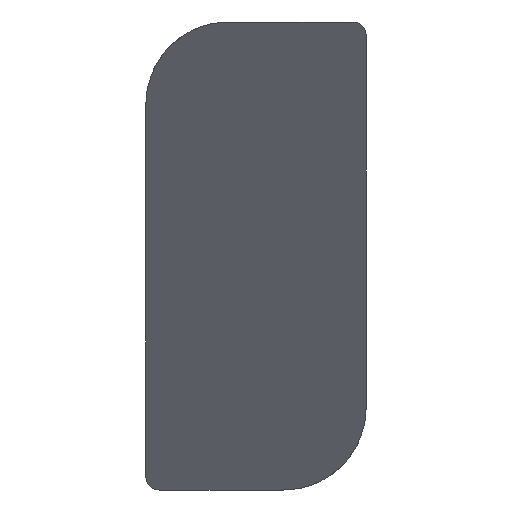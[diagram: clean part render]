
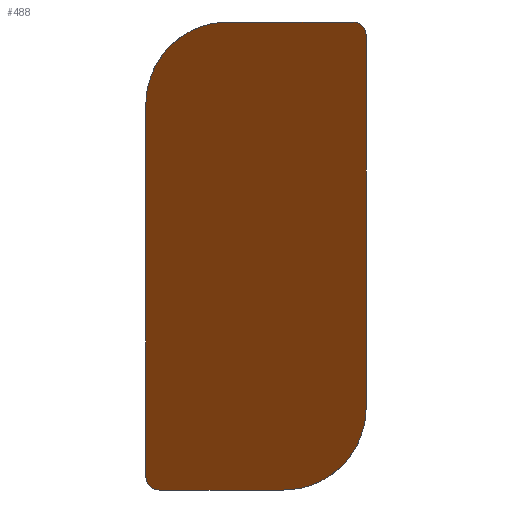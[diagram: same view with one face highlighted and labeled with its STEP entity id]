
A CAD part, left-side view. The second image highlights one B-rep face of the part: STEP entity #488.
In plain terms, the highlighted planar face has unit normal (-0.766, 0, -0.643).
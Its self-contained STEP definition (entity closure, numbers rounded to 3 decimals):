
#23 = VERTEX_POINT ( 'NONE', #459 ) ;
#27 = VERTEX_POINT ( 'NONE', #548 ) ;
#37 = CARTESIAN_POINT ( 'NONE',  ( -3.889, 0., -3.629 ) ) ;
#48 = CARTESIAN_POINT ( 'NONE',  ( -10.5, 4., 4.25 ) ) ;
#52 = DIRECTION ( 'NONE',  ( 0., -1., 0. ) ) ;
#57 = CARTESIAN_POINT ( 'NONE',  ( -10.5, 2.5, 4.25 ) ) ;
#61 = CARTESIAN_POINT ( 'NONE',  ( -3.368, 1.5, -4.25 ) ) ;
#65 = EDGE_CURVE ( 'NONE', #23, #27, #372, .T. ) ;
#70 = CARTESIAN_POINT ( 'NONE',  ( -10.5, 4., 4.25 ) ) ;
#80 = VECTOR ( 'NONE', #392, 1000. ) ;
#98 = CARTESIAN_POINT ( 'NONE',  ( -3.368, 3.75, -4.25 ) ) ;
#101 = CARTESIAN_POINT ( 'NONE',  ( -10.5, 0., 4.25 ) ) ;
#103 = CARTESIAN_POINT ( 'NONE',  ( -4.626, 0., -2.75 ) ) ;
#104 = EDGE_CURVE ( 'NONE', #539, #303, #132, .T. ) ;
#124 = EDGE_CURVE ( 'NONE', #274, #324, #277, .T. ) ;
#132 =( BOUNDED_CURVE ( )  B_SPLINE_CURVE ( 3, ( #555, #337, #37, #508 ),
 .UNSPECIFIED., .F., .F. ) 
 B_SPLINE_CURVE_WITH_KNOTS ( ( 4, 4 ),
 ( 3.142, 4.712 ),
 .UNSPECIFIED. ) 
 CURVE ( )  GEOMETRIC_REPRESENTATION_ITEM ( )  RATIONAL_B_SPLINE_CURVE ( ( 1., 0.805, 0.805, 1. ) ) 
 REPRESENTATION_ITEM ( '' )  );
#144 = DIRECTION ( 'NONE',  ( -0.643, 0., 0.766 ) ) ;
#146 = AXIS2_PLACEMENT_3D ( 'NONE', #433, #233, #398 ) ;
#186 = CARTESIAN_POINT ( 'NONE',  ( -9.979, 4., 3.629 ) ) ;
#192 = CARTESIAN_POINT ( 'NONE',  ( -10.5, 3.379, 4.25 ) ) ;
#196 = EDGE_CURVE ( 'NONE', #274, #318, #330, .T. ) ;
#201 = LINE ( 'NONE', #473, #80 ) ;
#203 = ORIENTED_EDGE ( 'NONE', *, *, #65, .T. ) ;
#205 = EDGE_LOOP ( 'NONE', ( #375, #341, #408, #279, #354, #203, #549, #310 ) ) ;
#210 = CARTESIAN_POINT ( 'NONE',  ( -3.368, 3.896, -4.25 ) ) ;
#216 = CARTESIAN_POINT ( 'NONE',  ( -10.29, 0., 4. ) ) ;
#221 = FACE_OUTER_BOUND ( 'NONE', #205, .T. ) ;
#231 = CARTESIAN_POINT ( 'NONE',  ( -9.241, 4., 2.75 ) ) ;
#232 = CARTESIAN_POINT ( 'NONE',  ( -9.241, 4., 2.75 ) ) ;
#233 = DIRECTION ( 'NONE',  ( 0.766, 0., 0.643 ) ) ;
#243 = VECTOR ( 'NONE', #453, 1000. ) ;
#274 = VERTEX_POINT ( 'NONE', #278 ) ;
#277 =( BOUNDED_CURVE ( )  B_SPLINE_CURVE ( 3, ( #504, #457, #210, #420 ),
 .UNSPECIFIED., .F., .F. ) 
 B_SPLINE_CURVE_WITH_KNOTS ( ( 4, 4 ),
 ( 4.712, 6.283 ),
 .UNSPECIFIED. ) 
 CURVE ( )  GEOMETRIC_REPRESENTATION_ITEM ( )  RATIONAL_B_SPLINE_CURVE ( ( 1., 0.805, 0.805, 1. ) ) 
 REPRESENTATION_ITEM ( '' )  );
#278 = CARTESIAN_POINT ( 'NONE',  ( -3.577, 4., -4. ) ) ;
#279 = ORIENTED_EDGE ( 'NONE', *, *, #104, .T. ) ;
#281 = LINE ( 'NONE', #48, #486 ) ;
#294 = EDGE_CURVE ( 'NONE', #353, #318, #357, .T. ) ;
#303 = VERTEX_POINT ( 'NONE', #103 ) ;
#310 = ORIENTED_EDGE ( 'NONE', *, *, #294, .T. ) ;
#318 = VERTEX_POINT ( 'NONE', #231 ) ;
#324 = VERTEX_POINT ( 'NONE', #98 ) ;
#330 = LINE ( 'NONE', #70, #243 ) ;
#337 = CARTESIAN_POINT ( 'NONE',  ( -3.368, 0.621, -4.25 ) ) ;
#341 = ORIENTED_EDGE ( 'NONE', *, *, #124, .T. ) ;
#353 = VERTEX_POINT ( 'NONE', #436 ) ;
#354 = ORIENTED_EDGE ( 'NONE', *, *, #518, .T. ) ;
#357 =( BOUNDED_CURVE ( )  B_SPLINE_CURVE ( 3, ( #57, #192, #186, #232 ),
 .UNSPECIFIED., .F., .F. ) 
 B_SPLINE_CURVE_WITH_KNOTS ( ( 4, 4 ),
 ( 0., 1.571 ),
 .UNSPECIFIED. ) 
 CURVE ( )  GEOMETRIC_REPRESENTATION_ITEM ( )  RATIONAL_B_SPLINE_CURVE ( ( 1., 0.805, 0.805, 1. ) ) 
 REPRESENTATION_ITEM ( '' )  );
#369 = CARTESIAN_POINT ( 'NONE',  ( -10.5, 0.25, 4.25 ) ) ;
#372 =( BOUNDED_CURVE ( )  B_SPLINE_CURVE ( 3, ( #216, #382, #557, #369 ),
 .UNSPECIFIED., .F., .F. ) 
 B_SPLINE_CURVE_WITH_KNOTS ( ( 4, 4 ),
 ( 1.571, 3.142 ),
 .UNSPECIFIED. ) 
 CURVE ( )  GEOMETRIC_REPRESENTATION_ITEM ( )  RATIONAL_B_SPLINE_CURVE ( ( 1., 0.805, 0.805, 1. ) ) 
 REPRESENTATION_ITEM ( '' )  );
#375 = ORIENTED_EDGE ( 'NONE', *, *, #196, .F. ) ;
#382 = CARTESIAN_POINT ( 'NONE',  ( -10.413, 0., 4.146 ) ) ;
#390 = EDGE_CURVE ( 'NONE', #353, #27, #281, .T. ) ;
#392 = DIRECTION ( 'NONE',  ( 0., -1., 0. ) ) ;
#398 = DIRECTION ( 'NONE',  ( 0.643, 0., -0.766 ) ) ;
#405 = VECTOR ( 'NONE', #144, 1000. ) ;
#408 = ORIENTED_EDGE ( 'NONE', *, *, #551, .T. ) ;
#420 = CARTESIAN_POINT ( 'NONE',  ( -3.368, 3.75, -4.25 ) ) ;
#433 = CARTESIAN_POINT ( 'NONE',  ( -10.5, 4., 4.25 ) ) ;
#436 = CARTESIAN_POINT ( 'NONE',  ( -10.5, 2.5, 4.25 ) ) ;
#443 = PLANE ( 'NONE',  #146 ) ;
#453 = DIRECTION ( 'NONE',  ( -0.643, 0., 0.766 ) ) ;
#457 = CARTESIAN_POINT ( 'NONE',  ( -3.455, 4., -4.146 ) ) ;
#459 = CARTESIAN_POINT ( 'NONE',  ( -10.29, 0., 4. ) ) ;
#473 = CARTESIAN_POINT ( 'NONE',  ( -3.368, 4., -4.25 ) ) ;
#486 = VECTOR ( 'NONE', #52, 1000. ) ;
#488 = ADVANCED_FACE ( 'NONE', ( #221 ), #443, .F. ) ;
#504 = CARTESIAN_POINT ( 'NONE',  ( -3.577, 4., -4. ) ) ;
#508 = CARTESIAN_POINT ( 'NONE',  ( -4.626, 0., -2.75 ) ) ;
#518 = EDGE_CURVE ( 'NONE', #303, #23, #538, .T. ) ;
#538 = LINE ( 'NONE', #101, #405 ) ;
#539 = VERTEX_POINT ( 'NONE', #61 ) ;
#548 = CARTESIAN_POINT ( 'NONE',  ( -10.5, 0.25, 4.25 ) ) ;
#549 = ORIENTED_EDGE ( 'NONE', *, *, #390, .F. ) ;
#551 = EDGE_CURVE ( 'NONE', #324, #539, #201, .T. ) ;
#555 = CARTESIAN_POINT ( 'NONE',  ( -3.368, 1.5, -4.25 ) ) ;
#557 = CARTESIAN_POINT ( 'NONE',  ( -10.5, 0.104, 4.25 ) ) ;
